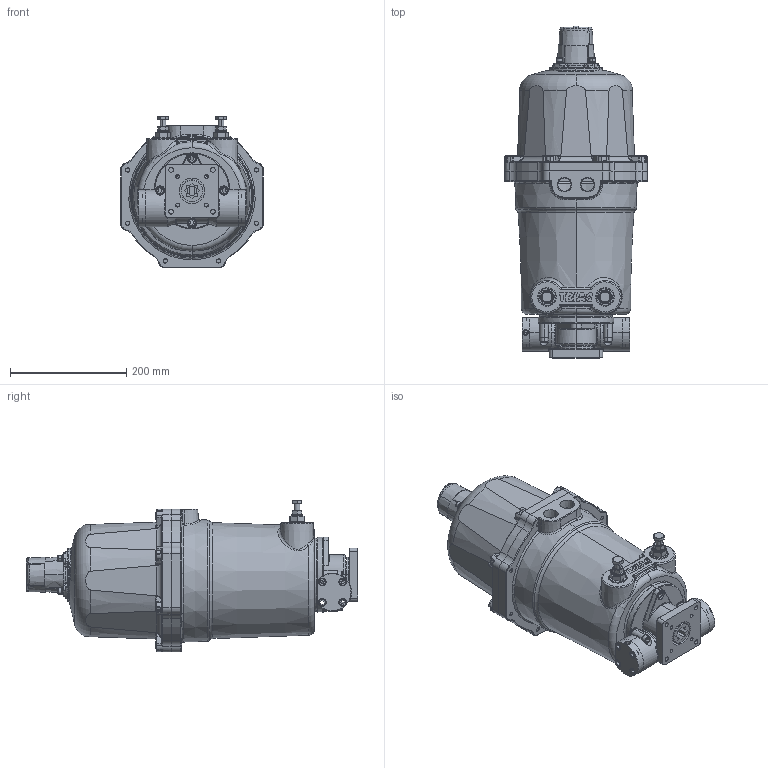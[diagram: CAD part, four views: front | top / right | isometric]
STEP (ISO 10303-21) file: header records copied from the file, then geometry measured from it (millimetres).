
FILE_DESCRIPTION (( 'STEP AP214' ), '1' );
FILE_NAME ('SRX-0600XXX-FC.STEP', '2020-02-20T18:45:47', ( '' ), ( '' ), 'SwSTEP 2.0', 'SolidWorks 2019', '' );
FILE_SCHEMA (( 'AUTOMOTIVE_DESIGN' ));
Length unit declared in the file: inch
Products named in the file (1): SRX-0600XXX-FC
Bounding box: 246 x 572 x 261.9 mm (x, y, z)
Surface area: 495569.9 mm2 (no closed solid volume)
Topology: 0 solids, 76 shells, 1433 faces, 4196 edges, 2714 vertices
Faces by surface type: cylinder 491, plane 448, torus 234, bspline 152, cone 97, sphere 11
Entity records: 75146 total; most frequent: CARTESIAN_POINT 19953, DIRECTION 7872, ORIENTED_EDGE 7048, EDGE_CURVE 4168, AXIS2_PLACEMENT_3D 3154, VERTEX_POINT 2714, CIRCLE 1872, EDGE_LOOP 1574
